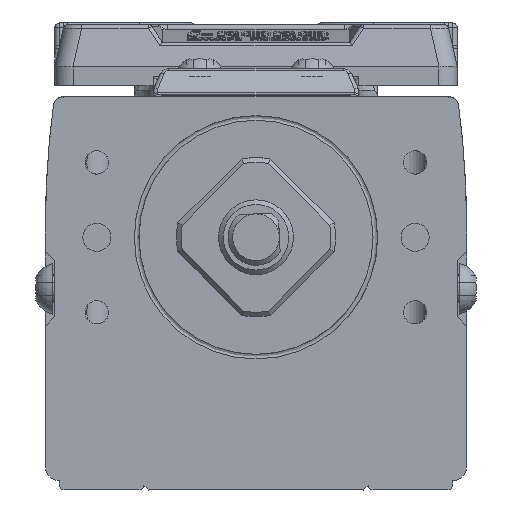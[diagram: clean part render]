
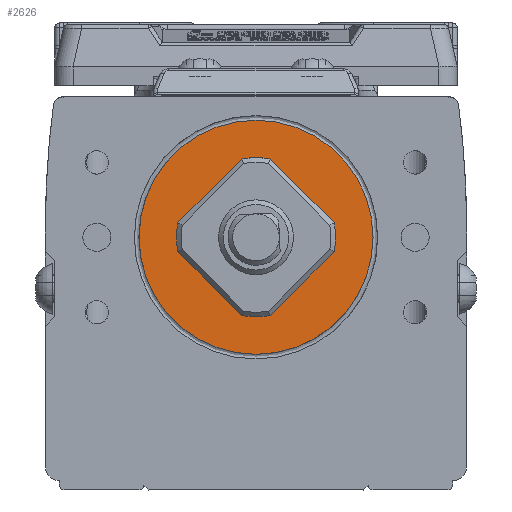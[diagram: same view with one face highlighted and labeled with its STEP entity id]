
A CAD part, left-side view. The second image highlights one B-rep face of the part: STEP entity #2626.
In plain terms, the highlighted planar face has unit normal (-1, 0, 0) as drawn and (0, 0, 1) by its records, which use the part's own axes.
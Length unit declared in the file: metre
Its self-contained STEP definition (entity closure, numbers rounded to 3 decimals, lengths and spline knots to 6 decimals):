
#2626=ADVANCED_FACE('',(#5978,#5979),#5980,.T.);
#5978=FACE_OUTER_BOUND('',#11209,.T.);
#5979=FACE_BOUND('',#11210,.T.);
#5980=PLANE('',#11211);
#11209=EDGE_LOOP('',(#19743));
#11210=EDGE_LOOP('',(#19744));
#11211=AXIS2_PLACEMENT_3D('',#19745,#19746,#19747);
#19743=ORIENTED_EDGE('',*,*,#30499,.T.);
#19744=ORIENTED_EDGE('',*,*,#29797,.F.);
#19745=CARTESIAN_POINT('',(0.000046,-0.005386,0.018));
#19746=DIRECTION('',(0.0,0.0,1.0));
#19747=DIRECTION('',(1.0,0.0,0.0));
#29797=EDGE_CURVE('',#35282,#35282,#35283,.T.);
#30499=EDGE_CURVE('',#36425,#36425,#36426,.T.);
#35282=VERTEX_POINT('',#42976);
#35283=CIRCLE('',#42977,0.004);
#36425=VERTEX_POINT('',#44757);
#36426=CIRCLE('',#44758,0.0125);
#42976=CARTESIAN_POINT('',(0.004,0.0,0.018));
#42977=AXIS2_PLACEMENT_3D('',#52094,#52095,#52096);
#44757=CARTESIAN_POINT('',(-0.0125,0.,0.018));
#44758=AXIS2_PLACEMENT_3D('',#52934,#52935,#52936);
#52094=CARTESIAN_POINT('',(0.0,0.0,0.018));
#52095=DIRECTION('',(0.0,0.0,1.0));
#52096=DIRECTION('',(-1.0,0.0,0.0));
#52934=CARTESIAN_POINT('',(0.0,0.,0.018));
#52935=DIRECTION('',(0.0,0.0,1.0));
#52936=DIRECTION('',(1.0,0.0,0.0));
